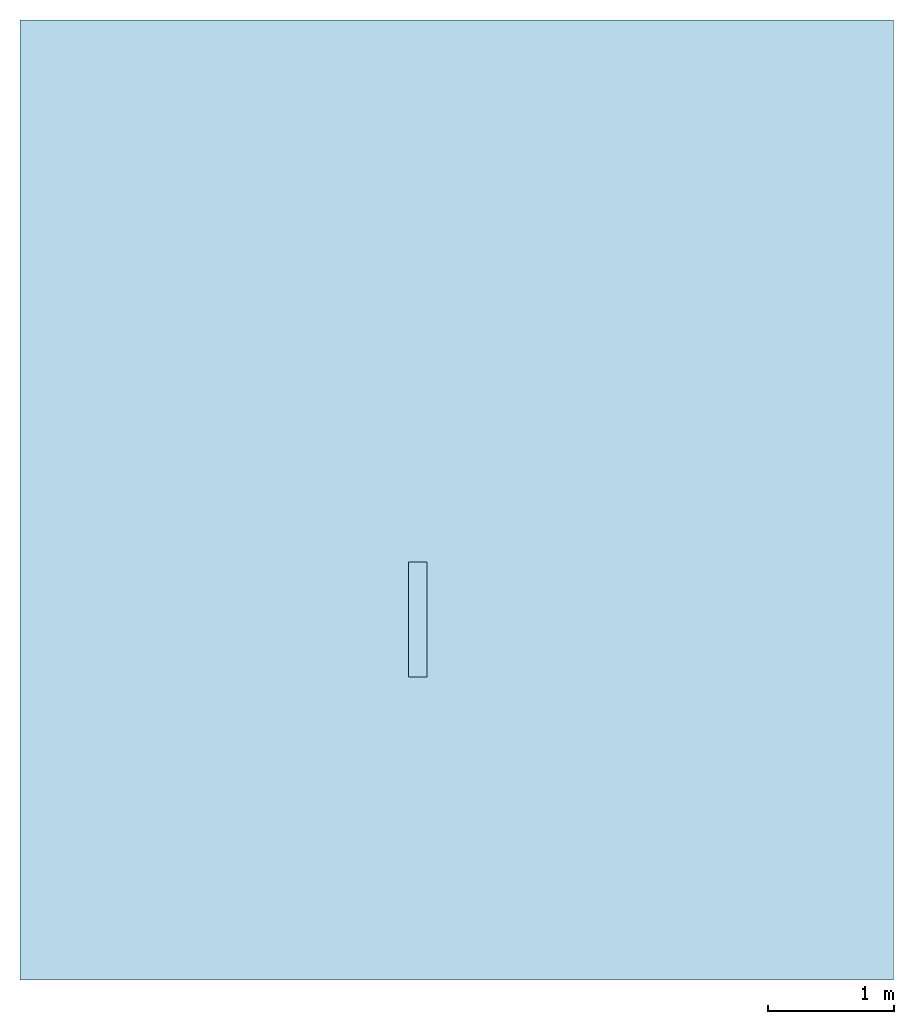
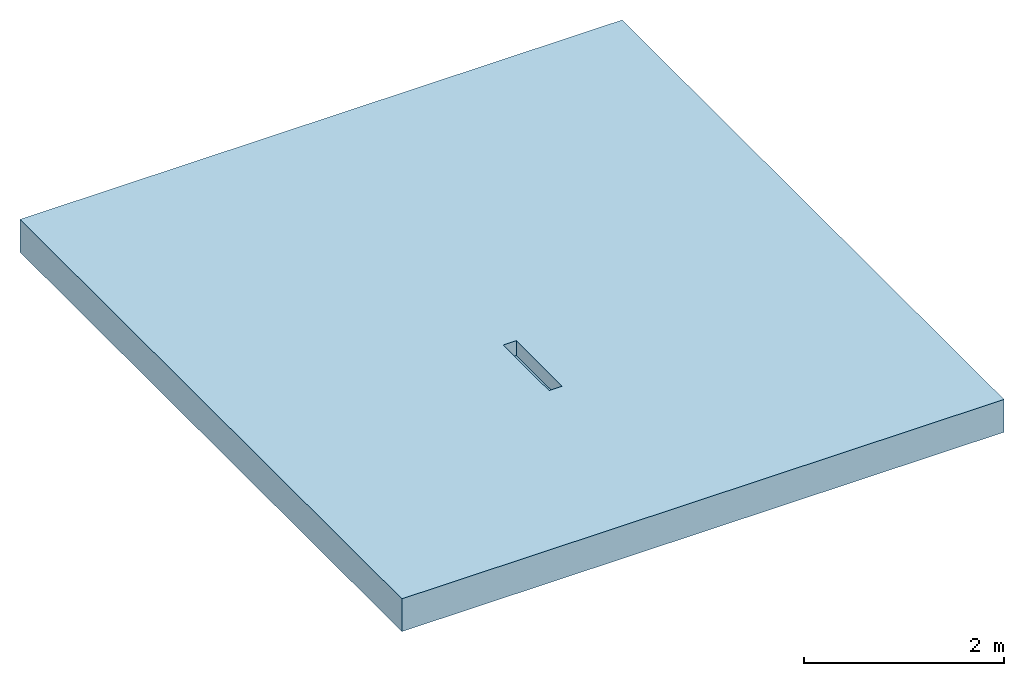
# One storey: 1 slab, 2 openings.
"""IFC2X3 building model written with IfcOpenShell, lengths in millimetres."""

from ifc_helpers import new_model, entity, si_unit, converted_unit, direction, frame, frame_2d, origin, origin_2d_with_axis, place, context, subcontext, project, spatial, rectangle, circle, extrude, material, layer, layer_set, layer_usage, element, save


model = new_model("IFC2X3")

# Units and contexts
model_context = context("Model", 3, precision=1e-06, world=origin(), true_north=direction((2.0, 6.12303176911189e-17, 1.0)))
context_of_model = context(None, 3, precision=1e-06, world=origin(), true_north=direction((2.0, 6.12303176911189e-17, 1.0)))
body_context = subcontext(model_context, "Body", "Model", "MODEL_VIEW")
ifc_project = project(units=[si_unit("LENGTHUNIT", "METRE", prefix="MILLI"), si_unit("AREAUNIT", "SQUARE_METRE", prefix="MILLI"), si_unit("VOLUMEUNIT", "CUBIC_METRE", prefix="MILLI"), converted_unit("PLANEANGLEUNIT", "DEGREE", entity("IfcRatioMeasure", 0.0174532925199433), si_unit("PLANEANGLEUNIT", "RADIAN"), dimensions=[0, 0, 0, 0, 0, 0, 0]), si_unit("TIMEUNIT", "SECOND")], contexts=[model_context, context_of_model])

# Site, building, storey
site_placement = place(None, origin())
site = spatial("IfcSite", under=ifc_project, at=site_placement, Name="Default", CompositionType="ELEMENT")
building_placement = place(site_placement, origin())
building = spatial("IfcBuilding", under=site, at=building_placement, CompositionType="ELEMENT")
storey_placement = place(building_placement, origin())
storey = spatial("IfcBuildingStorey", under=building, at=storey_placement, Name="Level 1", CompositionType="ELEMENT", Elevation=0.0)

# Slab, openings
ifc_material = material(Name="Default Floor")
ifc_layer = layer(ifc_material, 400.0)
ifc_layer_set = layer_set([ifc_layer], Name="Floor:Generic Floor - 400mm")
ifc_layer_usage = layer_usage(ifc_layer_set, "AXIS3", "POSITIVE", 0.0)
slab_placement = place(storey_placement, frame((-7426.51252910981, -9304.1683846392, -400.0)))
slab = element("IfcSlab", 1, at=slab_placement, inside=storey, material=ifc_layer_usage, Name="Floor:Generic Floor - 400mm", ObjectType="Floor:Generic Floor - 400mm", PredefinedType="FLOOR", context=body_context, shape_type="SweptSolid", body=[
    extrude(rectangle(XDim=7632.29114211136, YDim=6946.28644627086, at=frame_2d((0.0, 0.0), x_axis=(0.0, -1.0))), frame((3473.14322313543, 3816.14557105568, 400.0), z_axis=(0.0, 0.0, -1.0), x_axis=(-1.0, 0.0, 0.0)), (0.0, 0.0, 1.0), 400.0),
])
opening_1_placement = place(slab_placement, origin())
element("IfcOpeningElement", 2, at=opening_1_placement, cuts=slab, ObjectType="Recess", context=body_context, shape_type="SweptSolid", body=[
    extrude(circle(Radius=55.0000000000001, at=origin_2d_with_axis()), frame((3162.3019651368, 2457.6181649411, -5475.0), z_axis=(0.0, 1.0, 0.0), x_axis=(1.0, 0.0, 0.0)), (0.0, 0.0, 1.0), 49.9999999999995),
])
opening_2_placement = place(slab_placement, origin())
element("IfcOpeningElement", 3, at=opening_2_placement, cuts=slab, ObjectType="Recess", context=body_context, shape_type="SweptSolid", body=[
    extrude(rectangle(XDim=915.0, YDim=150.000000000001, at=origin_2d_with_axis()), frame((3162.30196513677, 2865.1181649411, 220.0), z_axis=(0.0, 0.0, 1.0), x_axis=(0.0, -1.0, 0.0)), (0.0, 0.0, 1.0), 180.0),
])

save(model, "model.ifc")
